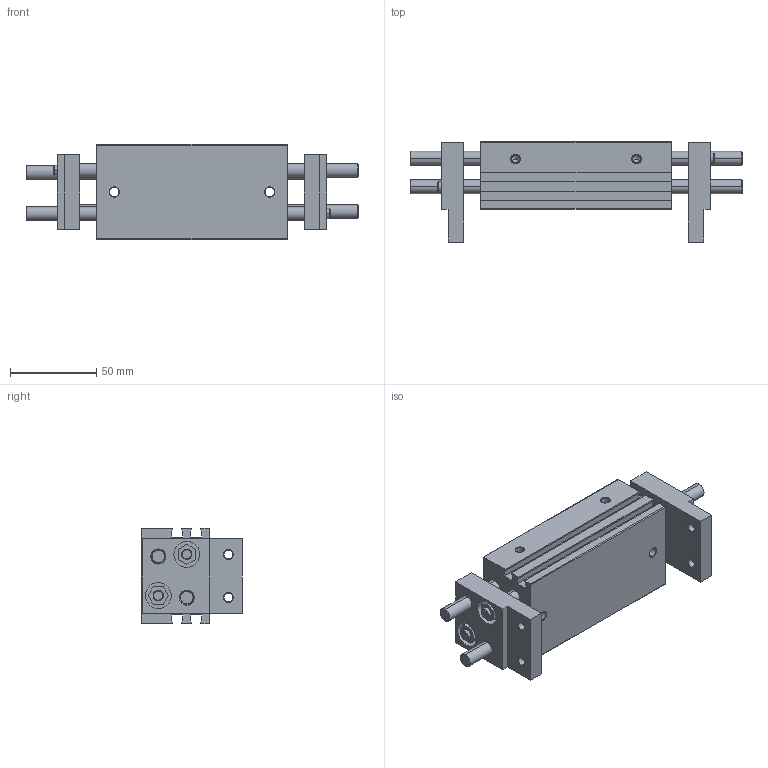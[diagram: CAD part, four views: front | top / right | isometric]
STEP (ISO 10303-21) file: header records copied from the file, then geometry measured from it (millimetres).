
FILE_DESCRIPTION (( 'STEP AP203' ), '1' );
FILE_NAME ('CHL2-16D2.STEP', '2017-06-06T20:20:04', ( '' ), ( '' ), 'SwSTEP 2.0', 'SolidWorks 2016', '' );
FILE_SCHEMA (( 'CONFIG_CONTROL_DESIGN' ));
Length unit declared in the file: millimetre
Products named in the file (3): CHL2-16D2 CORPO; CHL2-16D2 DEDO; CHL2-16D2
Assembly tree (3 placements, depth 2):
  CHL2-16D2
    CHL2-16D2 CORPO
    CHL2-16D2 DEDO  x2
Bounding box: 192 x 58 x 55 mm (x, y, z)
Volume: 271222.6 mm3; surface area: 80878.6 mm2
Topology: 3 solids, 3 shells, 347 faces, 809 edges, 503 vertices
Faces by surface type: cylinder 127, plane 125, cone 95
Entity records: 7799 total; most frequent: DIRECTION 1398, CARTESIAN_POINT 1251, ORIENTED_EDGE 1202, EDGE_CURVE 601, AXIS2_PLACEMENT_3D 528, VERTEX_POINT 381, LINE 342, VECTOR 342
